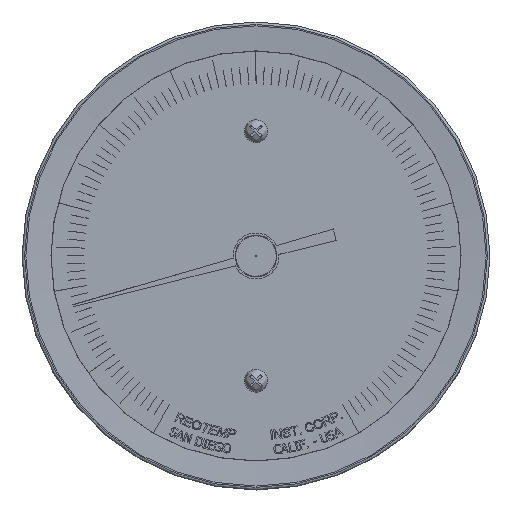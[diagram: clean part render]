
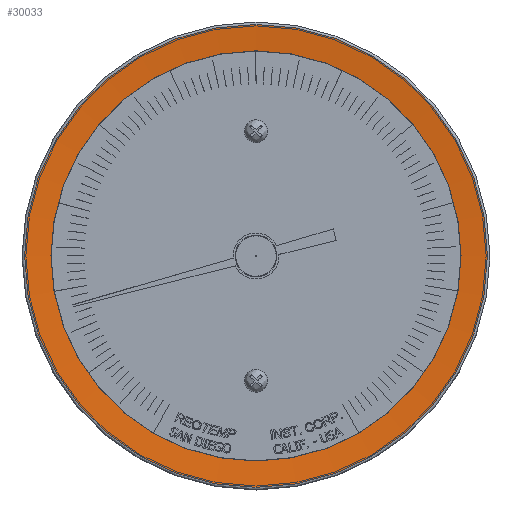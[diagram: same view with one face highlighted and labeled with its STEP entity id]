
A CAD part, top view. The second image highlights one B-rep face of the part: STEP entity #30033.
In plain terms, the highlighted conical face has half-angle 85 degrees and reference radius 36.331 mm.
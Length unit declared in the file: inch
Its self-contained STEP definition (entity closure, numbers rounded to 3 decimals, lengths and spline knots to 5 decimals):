
#37=CONICAL_SURFACE($,#31401,1.43036,85.);
#172=FACE_BOUND($,#3021,.T.);
#541=CIRCLE($,#31400,1.33664);
#542=CIRCLE($,#31402,1.50869);
#1449=FACE_OUTER_BOUND($,#3020,.T.);
#3020=EDGE_LOOP($,(#21623));
#3021=EDGE_LOOP($,(#21624));
#12731=VERTEX_POINT($,#44732);
#12732=VERTEX_POINT($,#44735);
#15995=EDGE_CURVE($,#12731,#12731,#541,.T.);
#15996=EDGE_CURVE($,#12732,#12732,#542,.T.);
#21623=ORIENTED_EDGE($,*,*,#15996,.F.);
#21624=ORIENTED_EDGE($,*,*,#15995,.F.);
#30033=ADVANCED_FACE($,(#1449,#172),#37,.F.);
#31400=AXIS2_PLACEMENT_3D($,#44733,#34069,#34070);
#31401=AXIS2_PLACEMENT_3D($,#44734,#34071,#34072);
#31402=AXIS2_PLACEMENT_3D($,#44736,#34073,#34074);
#34069=DIRECTION('center_axis',(0.,0.,
1.));
#34070=DIRECTION('ref_axis',(-1.,0.,0.));
#34071=DIRECTION('center_axis',(0.,0.,
1.));
#34072=DIRECTION('ref_axis',(1.,0.,0.));
#34073=DIRECTION('center_axis',(0.,0.,
-1.));
#34074=DIRECTION('ref_axis',(-1.,0.,0.));
#44732=CARTESIAN_POINT('',(1.84073,0.9879,6.23295));
#44733=CARTESIAN_POINT('Origin',(0.50409,0.9879,6.23295));
#44734=CARTESIAN_POINT('Origin',(0.50409,0.9879,6.24115));
#44735=CARTESIAN_POINT('',(2.01278,0.9879,6.24801));
#44736=CARTESIAN_POINT('Origin',(0.50409,0.9879,6.24801));
